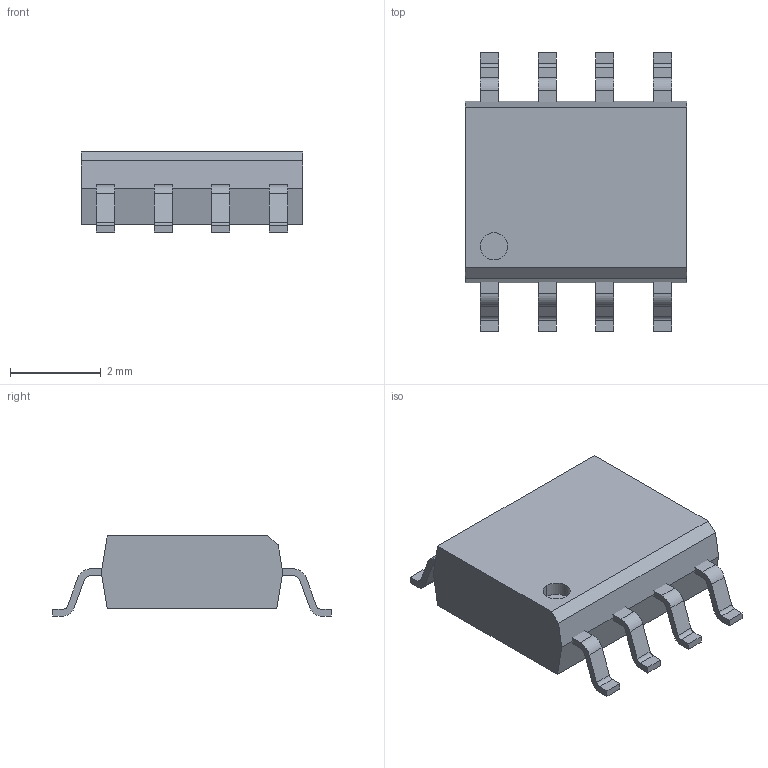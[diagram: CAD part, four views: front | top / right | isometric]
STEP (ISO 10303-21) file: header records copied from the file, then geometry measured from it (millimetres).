
FILE_DESCRIPTION(('Creo Elements/Direct Modeling STEP Export'),'2;1');
FILE_NAME('GO SME.stp','2022-05-18T10:52:33',(''),(''),'Creo Elements/Direct Modeling STEP processor for AP214 (Solid Model)','Creo Elements/Direct Modeling 20.1 10-Mar-2018 (C) Parametric Technology GmbH','');
FILE_SCHEMA(('AUTOMOTIVE_DESIGN { 1 0 10303 214 1 1 1 1 }'));
Length unit declared in the file: millimetre
Products named in the file (3): SO8_1.PRT; SO8_2.PRT; SO8.ASM
Assembly tree (2 placements, depth 2):
  SO8.ASM
    SO8_2.PRT
    SO8_1.PRT
Bounding box: 4.89 x 6.14 x 1.76 mm (x, y, z)
Volume: 33 mm3; surface area: 110.9 mm2
Topology: 2 solids, 2 shells, 106 faces, 303 edges, 202 vertices
Faces by surface type: plane 72, cylinder 34
Entity records: 3544 total; most frequent: CARTESIAN_POINT 612, ORIENTED_EDGE 606, DIRECTION 585, EDGE_CURVE 303, VECTOR 235, LINE 235, VERTEX_POINT 202, AXIS2_PLACEMENT_3D 175
